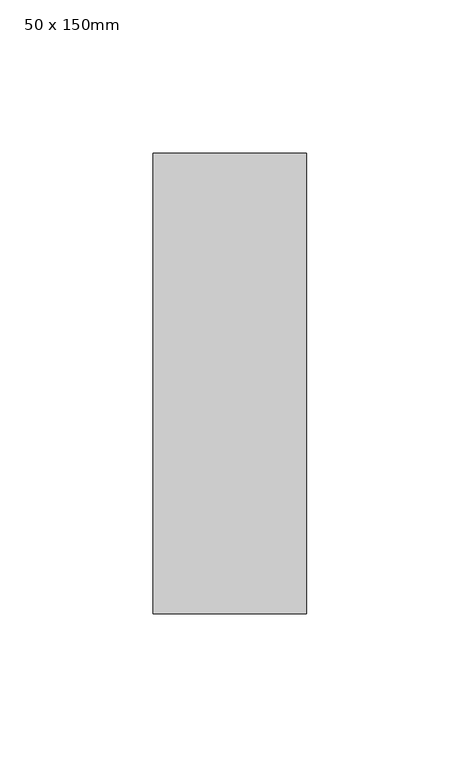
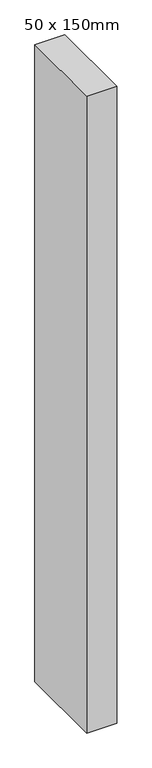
"""IFC4 building model written with IfcOpenShell, lengths in millimetres: member geometry, 矩形豎框 : 50 x 150mm."""

from ifc_helpers import new_model, si_unit, frame, origin, place, context, project, spatial, polyline, outline, extrude, source, transform, mapped, element, save


def member_50_x_150mm_26602ad8(model_context):
    return source(origin(), model_context, "Body", "SweptSolid", [
        extrude(outline(polyline([(0.0, 75.0), (0.0, -75.0), (-50.0, -75.0), (-50.0, 75.0), (0.0, 75.0)])), frame((0.0, 0.0, -1124.8779336), z_axis=(0.0, 0.0, 1.0), x_axis=(1.0, 0.0, 0.0)), (0.0, 0.0, 1.0), 1124.8779336),
    ])


if __name__ == "__main__":
    model = new_model("IFC4")
    model_context = context("Model", 3, world=origin())
    ifc_project = project(units=[si_unit("LENGTHUNIT", "METRE", prefix="MILLI")], contexts=[model_context])
    site = spatial("IfcSite", under=ifc_project)
    building = spatial("IfcBuilding", under=site)
    placement = place(None, origin())
    member_50_x_150mm_shape = member_50_x_150mm_26602ad8(model_context)
    element("IfcMember", 1, ObjectType="矩形豎框 : 50 x 150mm", at=placement, inside=building, context=model_context, shape_type="MappedRepresentation", body=[
        mapped(member_50_x_150mm_shape, transform((0.0, 0.0, 0.0), x_axis=(1.0, 0.0, 0.0), y_axis=(0.0, 1.0, 0.0), z_axis=(0.0, 0.0, 1.0))),
    ])
    save(model, "model.ifc")
